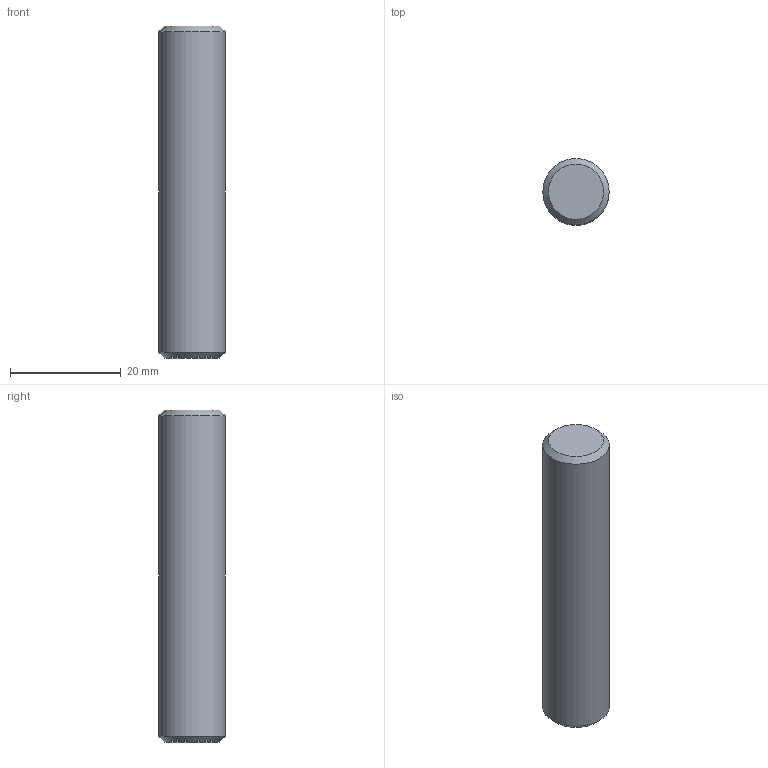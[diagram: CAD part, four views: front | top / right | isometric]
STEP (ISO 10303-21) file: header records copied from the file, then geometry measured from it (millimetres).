
FILE_DESCRIPTION(/* description */ (''),/* implementation_level */ '2;1');
FILE_NAME(/* name */ 'TRAYLOADER.111.stp',/* time_stamp */ '2025-05-12T16:12:41+02:00',/* author */ (''),/* organization */ (''),/* preprocessor_version */ 'ST-DEVELOPER v19.4',/* originating_system */ 'SIEMENS PLM Software NX2306.5001',/* authorisation */ '');
FILE_SCHEMA (('AP203_CONFIGURATION_CONTROLLED_3D_DESIGN_OF_MECHANICAL_PARTS_AND_ASSEMBLIES_MIM_LF { 1 0 10303 403 2 1 2}'));
Length unit declared in the file: millimetre
Products named in the file (1): TRAYLOADER.111_objects
Bounding box: 12 x 12 x 60 mm (x, y, z)
Volume: 6750.2 mm3; surface area: 2441.4 mm2
Topology: 1 solids, 1 shells, 5 faces, 8 edges, 5 vertices
Faces by surface type: plane 2, cone 2, cylinder 1
Full cylindrical faces by diameter (mm): 12 x1
Entity records: 180 total; most frequent: DIRECTION 20, CARTESIAN_POINT 14, AXIS2_PLACEMENT_3D 10, EDGE_LOOP 8, ORIENTED_EDGE 8, FACE_BOUND 6, DATE_AND_TIME 5, LOCAL_TIME 5
